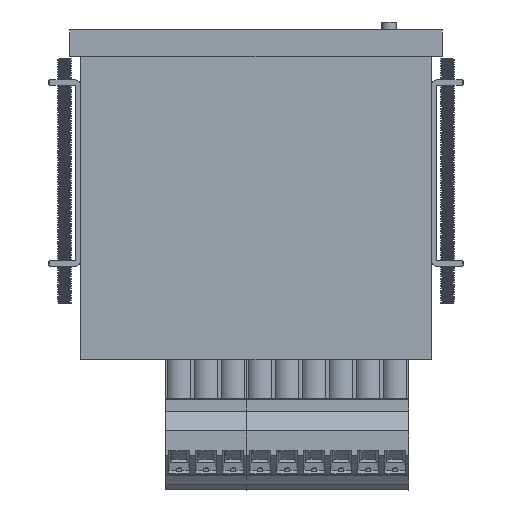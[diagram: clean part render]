
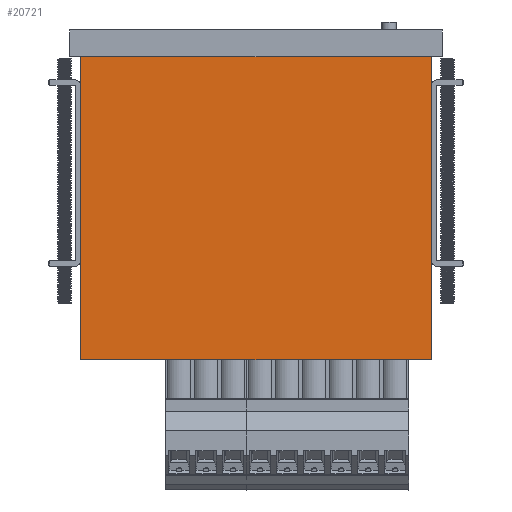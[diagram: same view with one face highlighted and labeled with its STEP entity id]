
A CAD part, front view. The second image highlights one B-rep face of the part: STEP entity #20721.
In plain terms, the highlighted planar face has unit normal (0, -1, 0).
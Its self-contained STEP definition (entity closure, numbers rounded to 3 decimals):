
#3044=FACE_OUTER_BOUND('',#4202,.T.);
#4202=EDGE_LOOP('',(#18565,#18566,#18567,#18568));
#5965=LINE('',#57456,#7616);
#5979=LINE('',#57484,#7630);
#5980=LINE('',#57487,#7631);
#5981=LINE('',#57488,#7632);
#7616=VECTOR('',#27169,10.);
#7630=VECTOR('',#27197,10.);
#7631=VECTOR('',#27200,10.);
#7632=VECTOR('',#27201,10.);
#9606=VERTEX_POINT('',#57453);
#9607=VERTEX_POINT('',#57455);
#9614=VERTEX_POINT('',#57482);
#9615=VERTEX_POINT('',#57486);
#12587=EDGE_CURVE('',#9606,#9607,#5965,.T.);
#12601=EDGE_CURVE('',#9614,#9607,#5979,.T.);
#12602=EDGE_CURVE('',#9615,#9614,#5980,.T.);
#12603=EDGE_CURVE('',#9615,#9606,#5981,.T.);
#18565=ORIENTED_EDGE('',*,*,#12602,.T.);
#18566=ORIENTED_EDGE('',*,*,#12601,.T.);
#18567=ORIENTED_EDGE('',*,*,#12587,.F.);
#18568=ORIENTED_EDGE('',*,*,#12603,.F.);
#19043=PLANE('',#22365);
#20721=ADVANCED_FACE('',(#3044),#19043,.T.);
#22365=AXIS2_PLACEMENT_3D('',#57485,#27198,#27199);
#27169=DIRECTION('',(1.,0.,0.));
#27197=DIRECTION('',(0.,0.,1.));
#27198=DIRECTION('center_axis',(0.,-1.,0.));
#27199=DIRECTION('ref_axis',(1.,0.,0.));
#27200=DIRECTION('',(1.,0.,0.));
#27201=DIRECTION('',(0.,0.,1.));
#57453=CARTESIAN_POINT('',(0.,0.,57.));
#57455=CARTESIAN_POINT('',(66.,0.,57.));
#57456=CARTESIAN_POINT('',(0.,0.,57.));
#57482=CARTESIAN_POINT('',(66.,0.,0.));
#57484=CARTESIAN_POINT('',(66.,0.,0.));
#57485=CARTESIAN_POINT('Origin',(0.,0.,0.));
#57486=CARTESIAN_POINT('',(0.,0.,0.));
#57487=CARTESIAN_POINT('',(0.,0.,0.));
#57488=CARTESIAN_POINT('',(0.,0.,0.));
